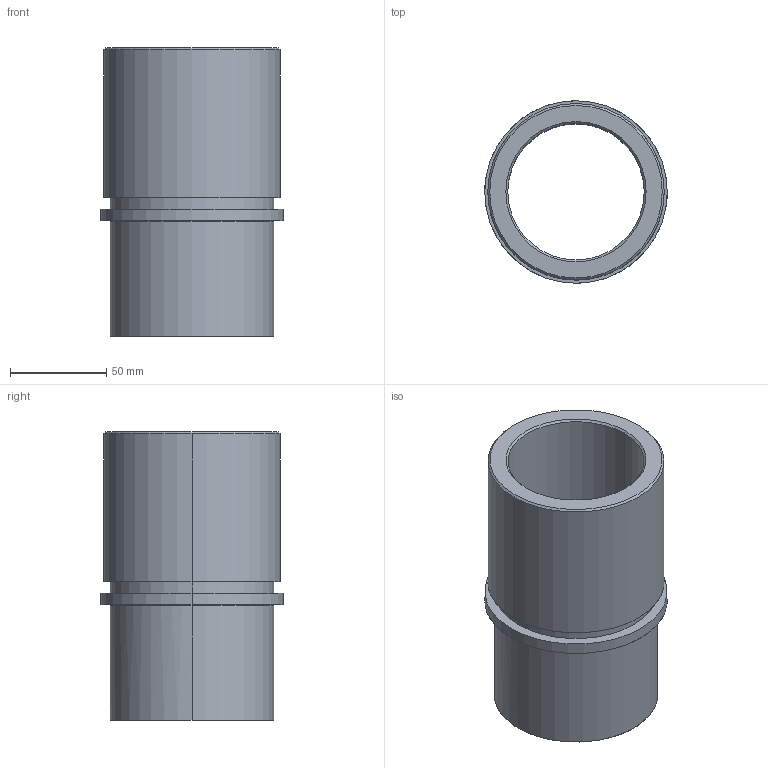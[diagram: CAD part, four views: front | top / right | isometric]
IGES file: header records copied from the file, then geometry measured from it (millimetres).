
Start section: START RECORD GO HERE.
Global section: file name: 733-63.igs; native system: DASSAULT SYSTEMES CATIA V5 R20 - www.3ds.com; preprocessor: CATIA Version 5 Release 20 ; author: Utente; organization: NB04-ASUS; date: 20210111.182824; units: millimetre
Bounding box: 95 x 95 x 150 mm (x, y, z)
Surface area: 83516.8 mm2 (no closed solid volume)
Topology: 0 solids, 0 shells, 25 faces, 100 edges, 100 vertices
Faces by surface type: revolution 20, plane 5
